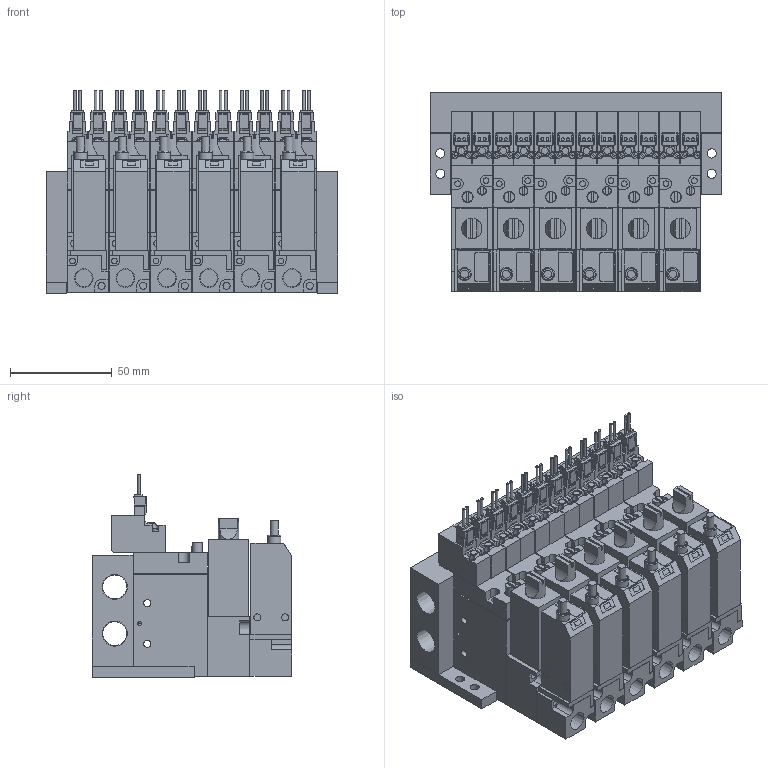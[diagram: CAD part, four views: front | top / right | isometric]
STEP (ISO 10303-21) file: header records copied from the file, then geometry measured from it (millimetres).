
FILE_DESCRIPTION(('STEP AP203'),'1');
FILE_NAME('BMPV32M2NAB25BL606.stp','2025-06-17T00:17:42',(' '),(' '),'Spatial InterOp 3D',' ',' ');
FILE_SCHEMA(('CONFIG_CONTROL_DESIGN'));
Length unit declared in the file: millimetre
Products named in the file (76): BMPV32M2NAB25BL606; Filter Assy; __; _____; BMPV32 MB06; MB BRACKET; Pressure sensor ABSL; ___ ___2; ___-2(Rc); ___; upper plate-A; ______; ____; VACUUM VALVE FUNCTION MPV42-A
Assembly tree (75 placements, depth 2):
  BMPV32M2NAB25BL606
    Filter Assy
    __
    _____
    Filter Assy
    __
    _____
    Filter Assy
    __
    _____
    Filter Assy
    __
    _____
    Filter Assy
    __
    _____
    BMPV32 MB06
    MB BRACKET
    MB BRACKET
    Filter Assy
    __
    _____
    Pressure sensor ABSL
    ___ ___2
    ___-2(Rc)
    ___-2(Rc)
    ___ ___2
    Pressure sensor ABSL
    ___-2(Rc)
    ___ ___2
    Pressure sensor ABSL
    ___-2(Rc)
    ___ ___2
    Pressure sensor ABSL
    ___-2(Rc)
    ___ ___2
    Pressure sensor ABSL
    ___-2(Rc)
    ___ ___2
    Pressure sensor ABSL
    ___
    upper plate-A
    ______
    ____
    VACUUM VALVE FUNCTION MPV42-A
    VACUUM VALVE FUNCTION MPV42-A
    ___
    upper plate-A
    ______
    ____
    VACUUM VALVE FUNCTION MPV42-A
    VACUUM VALVE FUNCTION MPV42-A
    ___
    upper plate-A
    ______
    ____
    VACUUM VALVE FUNCTION MPV42-A
    VACUUM VALVE FUNCTION MPV42-A
    ___
    upper plate-A
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Bounding box: 143.5 x 98 x 99.75 mm (x, y, z)
Volume: 715100.6 mm3; surface area: 235989.1 mm2
Topology: 75 solids, 75 shells, 2255 faces, 5860 edges, 3898 vertices
Faces by surface type: plane 1809, cylinder 396, cone 44, torus 6
Full cylindrical faces by diameter (mm): 1.4 x24, 1.8 x12, 2 x12, 2.5 x16, 2.8 x24, 3 x24, 3.5 x76, 4 x12, 4.2 x6, 4.5 x4, 5 x6, 5.5 x6, 6.5 x12, 8.522 x6, 11.776 x2
Entity records: 70650 total; most frequent: CARTESIAN_POINT 12045, DIRECTION 11106, ORIENTED_EDGE 10900, EDGE_CURVE 5450, LINE 4408, VECTOR 4408, VERTEX_POINT 3820, AXIS2_PLACEMENT_3D 3349
